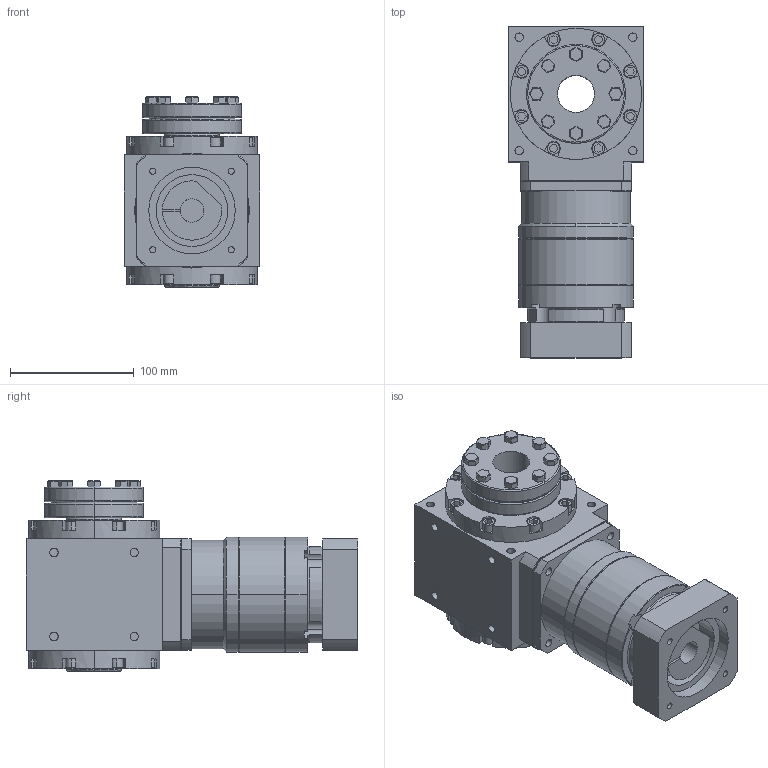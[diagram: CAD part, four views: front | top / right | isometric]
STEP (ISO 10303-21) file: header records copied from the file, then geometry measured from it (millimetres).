
FILE_DESCRIPTION (( 'STEP AP203' ), '1' );
FILE_NAME ('AAW110AS-L2-RFHP 19-70-90-M6.STEP', '2024-12-24T05:39:25', ( '' ), ( '' ), 'SwSTEP 2.0', 'SolidWorks 2021', '' );
FILE_SCHEMA (( 'CONFIG_CONTROL_DESIGN' ));
Length unit declared in the file: millimetre
Products named in the file (3): AAW110AS-RFHP; AAW110AS-L2-RFHP 19-70-90-M6; VRB-090-L2-S2-P1 19-70-90-M6
Assembly tree (2 placements, depth 2):
  AAW110AS-L2-RFHP 19-70-90-M6
    AAW110AS-RFHP
    VRB-090-L2-S2-P1 19-70-90-M6
Bounding box: 110 x 268.5 x 154 mm (x, y, z)
Volume: 2387288.6 mm3; surface area: 200254.9 mm2
Topology: 2 solids, 2 shells, 582 faces, 1408 edges, 907 vertices
Faces by surface type: plane 357, cylinder 174, cone 39, bspline 12
Entity records: 17664 total; most frequent: CARTESIAN_POINT 3462, DIRECTION 2955, ORIENTED_EDGE 2816, EDGE_CURVE 1408, AXIS2_PLACEMENT_3D 1024, VECTOR 907, VERTEX_POINT 907, LINE 907
